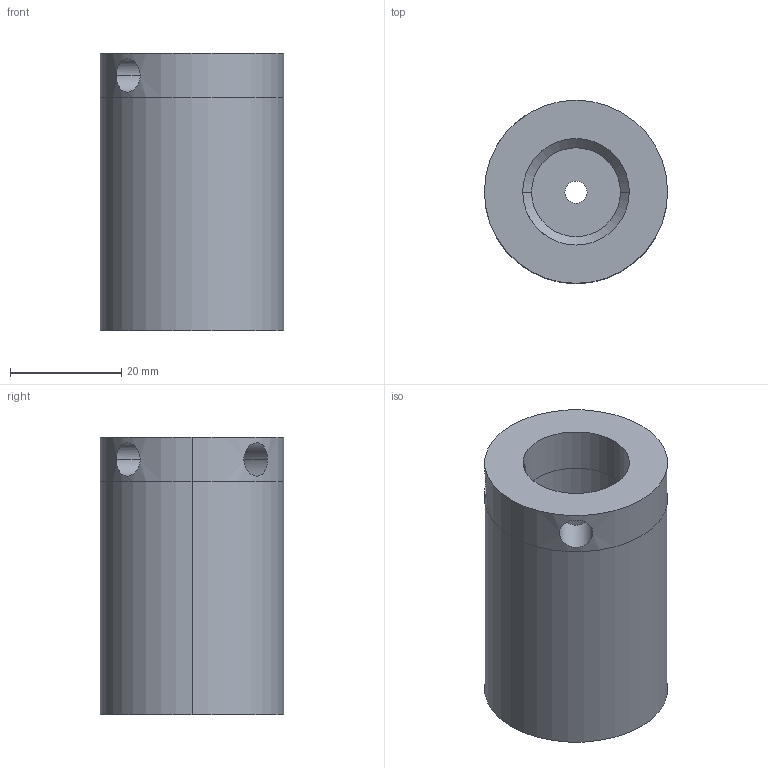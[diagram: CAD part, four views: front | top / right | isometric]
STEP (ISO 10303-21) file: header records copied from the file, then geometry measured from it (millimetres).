
FILE_DESCRIPTION(/* description */ (''),/* implementation_level */ '2;1');
FILE_NAME(/* name */ '3d_usn20-50_06267_r00.stp',/* time_stamp */ '2011-01-10T14:08:53+09:00',/* author */ ('MISUMI'),/* organization */ (''),/* preprocessor_version */ 'ST-DEVELOPER v11',/* originating_system */ 'UGS - NX 5.0',/* authorisation */ '');
FILE_SCHEMA (('CONFIG_CONTROL_DESIGN'));
Length unit declared in the file: millimetre
Products named in the file (1): 3d_usn20-50_06267_r00
Bounding box: 33 x 33 x 50 mm (x, y, z)
Volume: 29089.4 mm3; surface area: 9759.1 mm2
Topology: 1 solids, 1 shells, 20 faces, 44 edges, 28 vertices
Faces by surface type: cylinder 14, plane 4, cone 2
Entity records: 878 total; most frequent: CARTESIAN_POINT 333, DIRECTION 98, ORIENTED_EDGE 88, EDGE_CURVE 44, AXIS2_PLACEMENT_3D 41, EDGE_LOOP 28, VERTEX_POINT 28, ADVANCED_FACE 20
